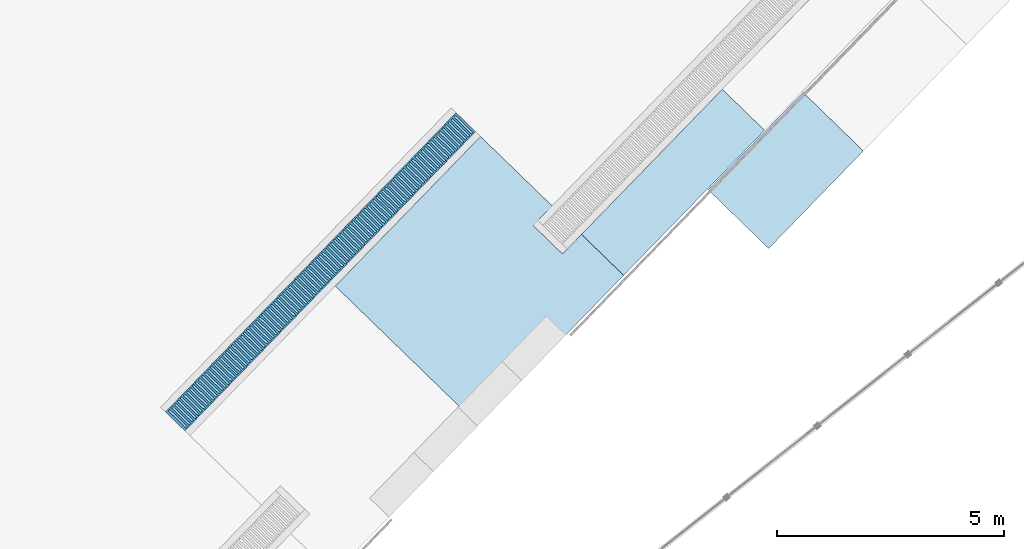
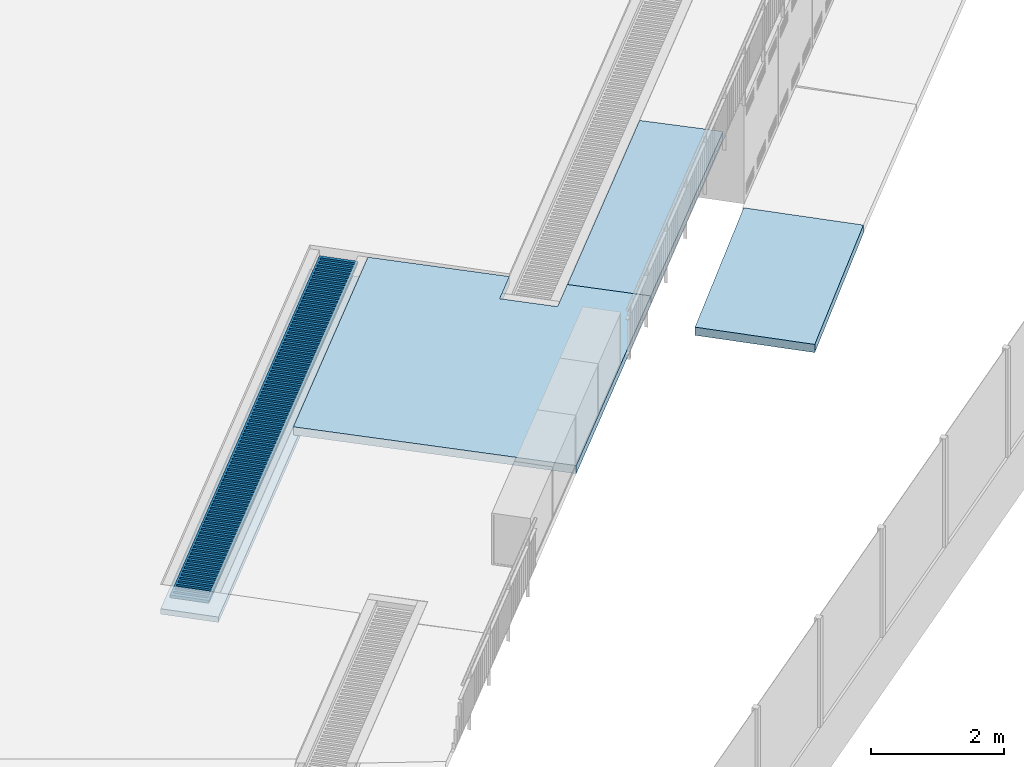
# One storey, part 15 of 37: 5 slabs.
"""IFC2X3 building model written with IfcOpenShell, lengths in centimetres."""

import ifcopenshell
import ifcopenshell.guid

model = None  # the IFC model being written
_history = None  # IfcOwnerHistory: only IFC2X3 demands one
_inside = {}  # id of a spatial element -> (the spatial element, [elements in it])
_under = {}  # id of a project, library or spatial element -> (it, [spatial elements below it])
_declared = {}  # id of a project -> (the project, [libraries it declares])
_typed = {}  # id of a type object -> (the type object, [elements of that type])
_made_of = {}  # id of a material, layer set ... -> (it, [elements and type objects made of it])


def new_model(schema):
    """Start an empty IFC model of exactly this schema.

    Asked for "IFC4X3", IfcOpenShell would pick the latest addendum, in which some entities
    have other attributes; the version numbers below select the first issue.
    IFC2X3 requires an IfcOwnerHistory on every rooted entity: one is made here for all.
    """
    global model, _history
    if schema == "IFC4X3":
        model = ifcopenshell.file(schema_version=(4, 3, 0, 0))
    else:
        model = ifcopenshell.file(schema=schema)
    _inside.clear()
    _under.clear()
    _declared.clear()
    _typed.clear()
    _made_of.clear()
    _history = None
    if model.schema == "IFC2X3":
        org = make("IfcOrganization", Name="unknown")
        user = make(
            "IfcPersonAndOrganization",
            ThePerson=make("IfcPerson", FamilyName="unknown"),
            TheOrganization=org,
        )
        app = make(
            "IfcApplication",
            ApplicationDeveloper=org,
            Version="unknown",
            ApplicationFullName="unknown",
            ApplicationIdentifier="unknown",
        )
        _history = make(
            "IfcOwnerHistory",
            OwningUser=user,
            OwningApplication=app,
            ChangeAction="ADDED",
            CreationDate=0,
        )
    return model


def make(cls, **values):
    """One entity of the class cls with the attributes given. An attribute that is None is left unset."""
    return model.create_entity(
        cls, **{name: value for name, value in values.items() if value is not None}
    )


def entity(cls, *values):
    """Any entity or typed value of the class cls, its attributes in the order of the schema. None: left unset."""
    e = model.create_entity(cls)
    for i, value in enumerate(values):
        if value is not None:
            e[i] = value
    return e


def rooted(cls, **values):
    """An entity with a GlobalId (a new one), such as an element, a storey or a relation."""
    return make(cls, GlobalId=ifcopenshell.guid.new(), OwnerHistory=_history, **values)


def si_unit(unit_type, name, prefix=None):
    """IfcSIUnit, for example si_unit("LENGTHUNIT", "METRE", prefix="MILLI")."""
    return make("IfcSIUnit", UnitType=unit_type, Prefix=prefix, Name=name)


def converted_unit(unit_type, name, factor, base, dimensions=None, offset=None):
    """IfcConversionBasedUnit, such as the inch: factor (a typed value) times the base unit."""
    return make(
        "IfcConversionBasedUnit"
        if offset is None
        else "IfcConversionBasedUnitWithOffset",
        ConversionOffset=offset,
        Dimensions=None
        if dimensions is None
        else entity("IfcDimensionalExponents", *dimensions),
        UnitType=unit_type,
        Name=name,
        ConversionFactor=make(
            "IfcMeasureWithUnit", ValueComponent=factor, UnitComponent=base
        ),
    )


def derived_unit(unit_type, elements):
    """IfcDerivedUnit: a product of units, each with its exponent."""
    return make(
        "IfcDerivedUnit",
        Elements=[
            make("IfcDerivedUnitElement", Unit=unit, Exponent=power)
            for unit, power in elements
        ],
        UnitType=unit_type,
    )


def assignment(units):
    """IfcUnitAssignment: the units of a project."""
    return None if units is None else make("IfcUnitAssignment", Units=units)


def point(xyz):
    """IfcCartesianPoint."""
    return None if xyz is None else make("IfcCartesianPoint", Coordinates=xyz)


def direction(xyz):
    """IfcDirection."""
    return None if xyz is None else make("IfcDirection", DirectionRatios=xyz)


def frame(location, z_axis=None, x_axis=None):
    """IfcAxis2Placement3D, a coordinate frame: its origin and axes. An axis left out is left unset."""
    return make(
        "IfcAxis2Placement3D",
        Location=point(location),
        Axis=direction(z_axis),
        RefDirection=direction(x_axis),
    )


def frame_2d(location, x_axis=None):
    """IfcAxis2Placement2D, a coordinate frame in the plane: its origin and x axis."""
    return make(
        "IfcAxis2Placement2D", Location=point(location), RefDirection=direction(x_axis)
    )


def origin():
    """The frame at (0, 0, 0) with its axes left unset."""
    return frame((0.0, 0.0, 0.0))


def place(relative_to, where):
    """IfcLocalPlacement: puts the frame where relative to a parent placement (None: the world)."""
    return make(
        "IfcLocalPlacement", PlacementRelTo=relative_to, RelativePlacement=where
    )


def context(
    kind, dimensions, precision=None, world=None, true_north=None, identifier=None
):
    """IfcGeometricRepresentationContext, for example the 3D "Model" context."""
    return make(
        "IfcGeometricRepresentationContext",
        ContextIdentifier=identifier,
        ContextType=kind,
        CoordinateSpaceDimension=dimensions,
        Precision=precision,
        WorldCoordinateSystem=world,
        TrueNorth=true_north,
    )


def subcontext(parent, identifier, kind, view, scale=None):
    """IfcGeometricRepresentationSubContext, for example "Body" below "Model"."""
    return make(
        "IfcGeometricRepresentationSubContext",
        ContextIdentifier=identifier,
        ContextType=kind,
        ParentContext=parent,
        TargetScale=scale,
        TargetView=view,
    )


def project(units=None, contexts=None):
    """IfcProject with its units and contexts."""
    return rooted(
        "IfcProject",
        Name="project",
        RepresentationContexts=contexts,
        UnitsInContext=assignment(units),
    )


def spatial(cls, under=None, at=None, **own):
    """A site, building, storey or space (cls), placed at a placement, below another one or the project."""
    s = rooted(cls, ObjectPlacement=at, **own)
    if under is not None:
        _under.setdefault(under.id(), (under, []))[1].append(s)
    return s


def polyline(points):
    """IfcPolyline through the points."""
    return make("IfcPolyline", Points=[point(p) for p in points])


def profile(cls, at=None, kind="AREA", **sizes):
    """A parametric profile (cls). Its sizes go by their IFC names, for example OverallWidth=200.0."""
    return make(cls, ProfileType=kind, Position=at, **sizes)


def rectangle(**sizes):
    """IfcRectangleProfileDef."""
    return profile("IfcRectangleProfileDef", **sizes)


def outline(outer, holes=None, kind="AREA"):
    """IfcArbitraryClosedProfileDef: a profile drawn as a closed curve; with holes, ...WithVoids."""
    if holes is None:
        return make("IfcArbitraryClosedProfileDef", ProfileType=kind, OuterCurve=outer)
    return make(
        "IfcArbitraryProfileDefWithVoids",
        ProfileType=kind,
        OuterCurve=outer,
        InnerCurves=holes,
    )


def extrude(swept, where, along, depth):
    """IfcExtrudedAreaSolid: the profile swept, set in the frame where, extruded along a direction by depth."""
    return make(
        "IfcExtrudedAreaSolid",
        SweptArea=swept,
        Position=where,
        ExtrudedDirection=direction(along),
        Depth=depth,
    )


def shape(context_of_items, identifier, shape_type, items):
    """IfcShapeRepresentation: the items that make up one representation, for example the "Body"."""
    return make(
        "IfcShapeRepresentation",
        ContextOfItems=context_of_items,
        RepresentationIdentifier=identifier,
        RepresentationType=shape_type,
        Items=items,
    )


def material(Name=None, Category=None):
    """IfcMaterial."""
    return make("IfcMaterial", Name=Name, Category=Category)


def layer(
    of_material, thickness, ventilated=None, Name=None, Category=None, Priority=None
):
    """IfcMaterialLayer: one layer of a wall or slab, of a material (None: an air gap)."""
    return make(
        "IfcMaterialLayer",
        Material=of_material,
        LayerThickness=thickness,
        IsVentilated=ventilated,
        Name=Name,
        Category=Category,
        Priority=Priority,
    )


def layer_set(layers, Name=None):
    """IfcMaterialLayerSet."""
    return make("IfcMaterialLayerSet", MaterialLayers=layers, LayerSetName=Name)


def layer_usage(for_layer_set, set_direction, sense, offset, extent=None):
    """IfcMaterialLayerSetUsage: how a layer set lies in its element."""
    return make(
        "IfcMaterialLayerSetUsage",
        ForLayerSet=for_layer_set,
        LayerSetDirection=set_direction,
        DirectionSense=sense,
        OffsetFromReferenceLine=offset,
        ReferenceExtent=extent,
    )


def made_of(thing, what):
    """Note that an element or type object is made of a material, layer set ...; save() writes the relation."""
    if what is not None:
        _made_of.setdefault(what.id(), (what, []))[1].append(thing)
    return thing


def element(
    cls,
    number,
    at=None,
    inside=None,
    cuts=None,
    type_object=None,
    material=None,
    context=None,
    identifier="Body",
    shape_type=None,
    held_by="IfcProductDefinitionShape",
    body=None,
    shapes=None,
    **own,
):
    """One element of the class cls, such as IfcWall. Its Tag is "e" and its number.

    at: its placement. inside: the storey or other place that contains it. cuts: it is an
    opening in that element (IfcRelVoidsElement). A single representation is given by context,
    identifier, shape_type and body (its items); several are given by shapes. held_by: the class
    of the entity that holds the representations. save() writes the other relations.
    """
    e = rooted(cls, Tag="e%d" % number, ObjectPlacement=at, **own)
    if body is not None:
        shapes = [shape(context, identifier, shape_type, body)]
    if shapes is not None:
        e.Representation = make(held_by, Representations=shapes)
    if inside is not None:
        _inside.setdefault(inside.id(), (inside, []))[1].append(e)
    if cuts is not None:
        rooted(
            "IfcRelVoidsElement", RelatingBuildingElement=cuts, RelatedOpeningElement=e
        )
    if type_object is not None:
        _typed.setdefault(type_object.id(), (type_object, []))[1].append(e)
    return made_of(e, material)


def aggregate(whole, parts):
    """IfcRelAggregates: a whole, such as a stair, and the parts it consists of."""
    return rooted("IfcRelAggregates", RelatingObject=whole, RelatedObjects=parts)


def save(model, path):
    """Write the relations noted so far, then the file.

    IfcRelAggregates (storeys below a building ...), IfcRelContainedInSpatialStructure (elements
    in a storey), IfcRelDefinesByType, IfcRelAssociatesMaterial and IfcRelDeclares: one each for
    every whole, place, type object, material and project.
    """
    for whole, parts in _under.values():
        aggregate(whole, parts)
    for where, things in _inside.values():
        rooted(
            "IfcRelContainedInSpatialStructure",
            RelatedElements=things,
            RelatingStructure=where,
        )
    for kind, things in _typed.values():
        rooted("IfcRelDefinesByType", RelatedObjects=things, RelatingType=kind)
    for what, things in _made_of.values():
        rooted("IfcRelAssociatesMaterial", RelatedObjects=things, RelatingMaterial=what)
    for by, libraries in _declared.values():
        rooted("IfcRelDeclares", RelatingContext=by, RelatedDefinitions=libraries)
    model.write(path)


model = new_model("IFC2X3")

# Units and contexts
model_context = context("Model", 3, precision=0.001, world=origin(), true_north=direction((0.717475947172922, 0.696583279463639)))
body_context = subcontext(model_context, "Body", "Model", "MODEL_VIEW")
ifc_project = project(units=[si_unit("LENGTHUNIT", "METRE", prefix="CENTI"), si_unit("AREAUNIT", "SQUARE_METRE"), si_unit("VOLUMEUNIT", "CUBIC_METRE"), converted_unit("PLANEANGLEUNIT", "DEGREE", entity("IfcRatioMeasure", 0.0174532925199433), si_unit("PLANEANGLEUNIT", "RADIAN"), dimensions=[0, 0, 0, 0, 0, 0, 0]), si_unit("MASSUNIT", "GRAM", prefix="KILO"), derived_unit("MASSDENSITYUNIT", [(si_unit("MASSUNIT", "GRAM", prefix="KILO"), 1), (si_unit("LENGTHUNIT", "METRE"), -3)]), si_unit("TIMEUNIT", "SECOND"), si_unit("FREQUENCYUNIT", "HERTZ"), si_unit("THERMODYNAMICTEMPERATUREUNIT", "DEGREE_CELSIUS"), derived_unit("THERMALTRANSMITTANCEUNIT", [(si_unit("MASSUNIT", "GRAM", prefix="KILO"), 1), (si_unit("THERMODYNAMICTEMPERATUREUNIT", "KELVIN"), -1), (si_unit("TIMEUNIT", "SECOND"), -3)]), derived_unit("VOLUMETRICFLOWRATEUNIT", [(si_unit("LENGTHUNIT", "METRE"), 3), (si_unit("TIMEUNIT", "SECOND"), -1)]), si_unit("ELECTRICCURRENTUNIT", "AMPERE"), si_unit("ELECTRICVOLTAGEUNIT", "VOLT"), si_unit("POWERUNIT", "WATT"), si_unit("FORCEUNIT", "NEWTON", prefix="KILO"), si_unit("ILLUMINANCEUNIT", "LUX"), si_unit("LUMINOUSFLUXUNIT", "LUMEN"), si_unit("LUMINOUSINTENSITYUNIT", "CANDELA"), derived_unit("USERDEFINED", [(si_unit("MASSUNIT", "GRAM", prefix="KILO"), -1), (si_unit("LENGTHUNIT", "METRE"), -2), (si_unit("TIMEUNIT", "SECOND"), 3), (si_unit("LUMINOUSFLUXUNIT", "LUMEN"), 1)]), derived_unit("LINEARVELOCITYUNIT", [(si_unit("LENGTHUNIT", "METRE"), 1), (si_unit("TIMEUNIT", "SECOND"), -1)]), si_unit("PRESSUREUNIT", "PASCAL"), derived_unit("USERDEFINED", [(si_unit("LENGTHUNIT", "METRE"), -2), (si_unit("MASSUNIT", "GRAM", prefix="KILO"), 1), (si_unit("TIMEUNIT", "SECOND"), -2)])], contexts=[model_context])

# Site, building, storey
site_placement = place(None, frame((0.0, 0.0, 0.0), z_axis=(0.0, 0.0, 1.0), x_axis=(0.696583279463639, 0.717475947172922, 0.0)))
site = spatial("IfcSite", under=ifc_project, at=site_placement, Name="Surface", CompositionType="ELEMENT")
building_placement = place(site_placement, origin())
building = spatial("IfcBuilding", under=site, at=building_placement, CompositionType="ELEMENT")
storey_placement = place(building_placement, origin())
storey = spatial("IfcBuildingStorey", under=building, at=storey_placement, Name="Nivel 0.00", CompositionType="ELEMENT", Elevation=0.0)

# Slabs
ifc_material_1 = material(Name="<Unnamed>")
ifc_layer_1 = layer(ifc_material_1, 15.0)
ifc_layer_set_1 = layer_set([ifc_layer_1], Name="Pad:HORMIGON_EXTERIOR_150mm")
ifc_layer_usage_1 = layer_usage(ifc_layer_set_1, "AXIS3", "POSITIVE", 0.0)
slab_1_placement = place(storey_placement, frame((-137.112920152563, -1565.3079503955, 132.999369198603)))
element("IfcSlab", 1, at=slab_1_placement, inside=storey, material=ifc_layer_usage_1, Name="Pad:HORMIGON_EXTERIOR_150mm", ObjectType="Pad:HORMIGON_EXTERIOR_150mm", PredefinedType="FLOOR", context=body_context, shape_type="SweptSolid", body=[
    extrude(outline(polyline([(229.930055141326, 0.0), (-229.930055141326, 0.0), (-229.929970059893, -439.859701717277), (229.93005514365, -439.859701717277), (229.930055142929, -310.012577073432), (169.9309527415, -310.013025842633), (169.930952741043, -220.003891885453), (229.930055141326, -220.003891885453), (229.930055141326, 0.0)])), frame((229.930055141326, 439.841513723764, 15.0006202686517), z_axis=(0.0, 0.00909380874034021, 0.999958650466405), x_axis=(1.0, 0.0, 0.0)), (0.0, 0.00909380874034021, -0.999958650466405), 15.0006202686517),
])
ifc_layer_usage_2 = layer_usage(ifc_layer_set_1, "AXIS3", "POSITIVE", 0.0)
slab_2_placement = place(storey_placement, frame((322.747190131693, -1565.30812560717, 134.998210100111)))
element("IfcSlab", 2, at=slab_2_placement, inside=storey, material=ifc_layer_usage_2, Name="Pad:HORMIGON_EXTERIOR_150mm", ObjectType="Pad:HORMIGON_EXTERIOR_150mm", PredefinedType="FLOOR", context=body_context, shape_type="SweptSolid", body=[
    extrude(outline(polyline([(222.967704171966, 0.0), (-222.967704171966, 0.0), (-222.967704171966, -129.857333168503), (172.824924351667, -129.857333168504), (222.967704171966, -129.850801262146), (222.967704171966, 0.0)])), frame((222.967704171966, 129.841930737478, 15.0017793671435), z_axis=(0.0, 0.0154015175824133, 0.999881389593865), x_axis=(1.0, 0.0, 0.0)), (0.0, 0.0154015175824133, -0.999881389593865), 15.0017793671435),
])
ifc_layer_usage_3 = layer_usage(ifc_layer_set_1, "AXIS3", "POSITIVE", 0.0)
slab_3_placement = place(storey_placement, frame((587.739818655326, -1753.39831701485, -100.021325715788)))
element("IfcSlab", 3, at=slab_3_placement, inside=storey, material=ifc_layer_usage_3, Name="Pad:HORMIGON_EXTERIOR_150mm", ObjectType="Pad:HORMIGON_EXTERIOR_150mm", PredefinedType="FLOOR", context=body_context, shape_type="SweptSolid", body=[
    extrude(rectangle(XDim=300.447469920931, YDim=186.090191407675, at=frame_2d((150.223734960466, -1.00326556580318), x_axis=(-1.0, 0.0))), frame((0.0, 94.0483612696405, 15.0213151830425), z_axis=(-0.0532539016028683, 0.0, 0.998581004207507), x_axis=(0.998581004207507, 0.0, 0.0532539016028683)), (-0.0532539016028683, 0.0, -0.998581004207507), 15.0213151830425),
])
ifc_material_2 = material(Name="Stainless Steel")
slab_4_placement = place(storey_placement, origin())
element("IfcSlab", 4, at=slab_4_placement, inside=storey, material=ifc_material_2, Name="REGUERA_METÁLICA3:REGUERA_METÁLICA-03", ObjectType="REGUERA_METÁLICA3:REGUERA_METÁLICA-03", PredefinedType="FLOOR", context=body_context, shape_type="SweptSolid", body=[
    extrude(outline(polyline([(-29.9950213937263, -459.860110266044), (29.9950213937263, -459.860110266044), (29.9950213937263, 459.860110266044), (-29.9950213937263, 459.860110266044), (-29.9950213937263, -459.860110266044)]), holes=[polyline([(-26.9925406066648, 202.477018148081), (-26.9925406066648, 206.828855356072), (27.0027963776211, 206.828855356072), (27.0027963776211, 202.477018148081), (-26.9925406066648, 202.477018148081)]), polyline([(-26.9925406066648, 211.591355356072), (-26.9925406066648, 216.353855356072), (27.0035162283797, 216.353855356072), (27.0035162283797, 211.591355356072), (-26.9925406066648, 211.591355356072)]), polyline([(-26.9925406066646, 221.116355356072), (-26.9925406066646, 225.878855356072), (27.0035162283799, 225.878855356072), (27.0035162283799, 221.116355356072), (-26.9925406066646, 221.116355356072)]), polyline([(-26.9925406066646, 230.641355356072), (-26.9925406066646, 235.403855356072), (27.0035162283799, 235.403855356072), (27.0035162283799, 230.641355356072), (-26.9925406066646, 230.641355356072)]), polyline([(-26.9925406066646, 240.166355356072), (-26.9925406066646, 244.928855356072), (27.0035162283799, 244.928855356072), (27.0035162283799, 240.166355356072), (-26.9925406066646, 240.166355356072)]), polyline([(-26.9925406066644, 249.691355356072), (-26.9925406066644, 254.453855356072), (27.0035162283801, 254.453855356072), (27.0035162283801, 249.691355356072), (-26.9925406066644, 249.691355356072)]), polyline([(-26.9925406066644, 259.216355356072), (-26.9925406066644, 263.978855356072), (27.0035162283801, 263.978855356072), (27.0035162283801, 259.216355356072), (-26.9925406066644, 259.216355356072)]), polyline([(-26.9925406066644, 268.741355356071), (-26.9925406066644, 273.503855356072), (27.0035162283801, 273.503855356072), (27.0035162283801, 268.741355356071), (-26.9925406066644, 268.741355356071)]), polyline([(-26.9925406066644, 278.266355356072), (-26.9925406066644, 283.028855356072), (27.0035162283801, 283.028855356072), (27.0035162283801, 278.266355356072), (-26.9925406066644, 278.266355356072)]), polyline([(-26.9925406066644, 287.791355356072), (-26.9925406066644, 292.553855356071), (27.0035162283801, 292.553855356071), (27.0035162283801, 287.791355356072), (-26.9925406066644, 287.791355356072)]), polyline([(-26.9925406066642, 297.316355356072), (-26.9925406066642, 302.078855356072), (27.0035162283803, 302.078855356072), (27.0035162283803, 297.316355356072), (-26.9925406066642, 297.316355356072)]), polyline([(-26.9925406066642, 306.841355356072), (-26.9925406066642, 311.603855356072), (27.0035162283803, 311.603855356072), (27.0035162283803, 306.841355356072), (-26.9925406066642, 306.841355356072)]), polyline([(-26.9925406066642, 316.366355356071), (-26.9925406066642, 321.128855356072), (27.0035162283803, 321.128855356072), (27.0035162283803, 316.366355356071), (-26.9925406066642, 316.366355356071)]), polyline([(-26.992540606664, 325.891355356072), (-26.992540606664, 330.653855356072), (27.0035162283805, 330.653855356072), (27.0035162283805, 325.891355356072), (-26.992540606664, 325.891355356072)]), polyline([(-26.992540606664, 335.416355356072), (-26.992540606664, 340.178855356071), (27.0035162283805, 340.178855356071), (27.0035162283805, 335.416355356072), (-26.992540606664, 335.416355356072)]), polyline([(-26.992540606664, 344.941355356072), (-26.992540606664, 349.703855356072), (27.0035162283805, 349.703855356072), (27.0035162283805, 344.941355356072), (-26.992540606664, 344.941355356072)]), polyline([(-26.992540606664, 354.466355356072), (-26.992540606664, 359.228855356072), (27.0035162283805, 359.228855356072), (27.0035162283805, 354.466355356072), (-26.992540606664, 354.466355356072)]), polyline([(-26.992540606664, 363.991355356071), (-26.992540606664, 368.753855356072), (27.0035162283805, 368.753855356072), (27.0035162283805, 363.991355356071), (-26.992540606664, 363.991355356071)]), polyline([(-26.9925406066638, 373.516355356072), (-26.9925406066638, 378.278855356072), (27.0035162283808, 378.278855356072), (27.0035162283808, 373.516355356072), (-26.9925406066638, 373.516355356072)]), polyline([(-26.9925406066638, 383.041355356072), (-26.9925406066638, 387.803855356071), (27.0035162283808, 387.803855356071), (27.0035162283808, 383.041355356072), (-26.9925406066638, 383.041355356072)]), polyline([(-26.9925406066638, 392.566355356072), (-26.9925406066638, 397.328855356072), (27.0035162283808, 397.328855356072), (27.0035162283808, 392.566355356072), (-26.9925406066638, 392.566355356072)]), polyline([(-26.9925406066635, 402.091355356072), (-26.9925406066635, 406.853855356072), (27.003516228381, 406.853855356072), (27.003516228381, 402.091355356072), (-26.9925406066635, 402.091355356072)]), polyline([(-26.9925406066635, 411.616355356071), (-26.9925406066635, 416.378855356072), (27.003516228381, 416.378855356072), (27.003516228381, 411.616355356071), (-26.9925406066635, 411.616355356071)]), polyline([(-26.9925406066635, 421.141355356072), (-26.9925406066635, 425.903855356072), (27.003516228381, 425.903855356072), (27.003516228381, 421.141355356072), (-26.9925406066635, 421.141355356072)]), polyline([(-26.9925406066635, 430.666355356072), (-26.9925406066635, 435.428855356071), (27.003516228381, 435.428855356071), (27.003516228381, 430.666355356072), (-26.9925406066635, 430.666355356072)]), polyline([(-26.9925406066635, 440.191355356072), (-26.9925406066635, 444.953855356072), (27.003516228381, 444.953855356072), (27.003516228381, 440.191355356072), (-26.9925406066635, 440.191355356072)]), polyline([(-26.9925406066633, 449.716355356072), (-26.9925406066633, 454.478855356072), (27.0035162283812, 454.478855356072), (27.0035162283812, 449.716355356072), (-26.9925406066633, 449.716355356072)]), polyline([(-26.9925406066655, -44.7623190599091), (-26.9925406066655, -40.4104818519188), (27.0027963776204, -40.4104818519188), (27.0027963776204, -44.7623190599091), (-26.9925406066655, -44.7623190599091)]), polyline([(-26.9925406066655, -35.6479818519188), (-26.9925406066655, -30.8854818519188), (27.003516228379, -30.8854818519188), (27.003516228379, -35.6479818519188), (-26.9925406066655, -35.6479818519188)]), polyline([(-26.9925406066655, -26.1229818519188), (-26.9925406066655, -21.3604818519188), (27.003516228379, -21.3604818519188), (27.003516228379, -26.1229818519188), (-26.9925406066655, -26.1229818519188)]), polyline([(-26.9925406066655, -16.5979818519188), (-26.9925406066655, -11.8354818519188), (27.003516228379, -11.8354818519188), (27.003516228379, -16.5979818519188), (-26.9925406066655, -16.5979818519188)]), polyline([(-26.9925406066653, -7.07298185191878), (-26.9925406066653, -2.31048185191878), (27.0035162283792, -2.31048185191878), (27.0035162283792, -7.07298185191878), (-26.9925406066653, -7.07298185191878)]), polyline([(-26.9925406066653, 2.45201814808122), (-26.9925406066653, 7.21451814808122), (27.0035162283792, 7.21451814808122), (27.0035162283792, 2.45201814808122), (-26.9925406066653, 2.45201814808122)]), polyline([(-26.9925406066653, 11.9770181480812), (-26.9925406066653, 16.7395181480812), (27.0035162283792, 16.7395181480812), (27.0035162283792, 11.9770181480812), (-26.9925406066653, 11.9770181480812)]), polyline([(-26.9925406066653, 21.5020181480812), (-26.9925406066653, 26.2645181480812), (27.0035162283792, 26.2645181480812), (27.0035162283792, 21.5020181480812), (-26.9925406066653, 21.5020181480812)]), polyline([(-26.9925406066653, 31.0270181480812), (-26.9925406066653, 35.7895181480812), (27.0035162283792, 35.7895181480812), (27.0035162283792, 31.0270181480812), (-26.9925406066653, 31.0270181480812)]), polyline([(-26.9925406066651, 40.5520181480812), (-26.9925406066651, 45.3145181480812), (27.0035162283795, 45.3145181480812), (27.0035162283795, 40.5520181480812), (-26.9925406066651, 40.5520181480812)]), polyline([(-26.9925406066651, 50.0770181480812), (-26.9925406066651, 54.8395181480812), (27.0035162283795, 54.8395181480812), (27.0035162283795, 50.0770181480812), (-26.9925406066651, 50.0770181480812)]), polyline([(-26.9925406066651, 59.6020181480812), (-26.9925406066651, 64.3645181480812), (27.0035162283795, 64.3645181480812), (27.0035162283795, 59.6020181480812), (-26.9925406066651, 59.6020181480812)]), polyline([(-26.9925406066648, 69.1270181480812), (-26.9925406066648, 73.8895181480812), (27.0035162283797, 73.8895181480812), (27.0035162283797, 69.1270181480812), (-26.9925406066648, 69.1270181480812)]), polyline([(-26.9925406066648, 78.6520181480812), (-26.9925406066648, 83.4145181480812), (27.0035162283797, 83.4145181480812), (27.0035162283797, 78.6520181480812), (-26.9925406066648, 78.6520181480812)]), polyline([(-26.9925406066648, 88.1770181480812), (-26.9925406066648, 92.9395181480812), (27.0035162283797, 92.9395181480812), (27.0035162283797, 88.1770181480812), (-26.9925406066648, 88.1770181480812)]), polyline([(-26.9925406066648, 97.7020181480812), (-26.9925406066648, 102.464518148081), (27.0035162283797, 102.464518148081), (27.0035162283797, 97.7020181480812), (-26.9925406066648, 97.7020181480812)]), polyline([(-26.9925406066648, 107.227018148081), (-26.9925406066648, 111.989518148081), (27.0035162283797, 111.989518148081), (27.0035162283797, 107.227018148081), (-26.9925406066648, 107.227018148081)]), polyline([(-26.9925406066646, 116.752018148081), (-26.9925406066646, 121.514518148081), (27.0035162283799, 121.514518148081), (27.0035162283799, 116.752018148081), (-26.9925406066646, 116.752018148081)]), polyline([(-26.9925406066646, 126.277018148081), (-26.9925406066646, 131.039518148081), (27.0035162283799, 131.039518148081), (27.0035162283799, 126.277018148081), (-26.9925406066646, 126.277018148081)]), polyline([(-26.9925406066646, 135.802018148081), (-26.9925406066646, 140.564518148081), (27.0035162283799, 140.564518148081), (27.0035162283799, 135.802018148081), (-26.9925406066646, 135.802018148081)]), polyline([(-26.9925406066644, 145.327018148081), (-26.9925406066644, 150.089518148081), (27.0035162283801, 150.089518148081), (27.0035162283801, 145.327018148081), (-26.9925406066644, 145.327018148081)]), polyline([(-26.9925406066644, 154.852018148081), (-26.9925406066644, 159.614518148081), (27.0035162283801, 159.614518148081), (27.0035162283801, 154.852018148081), (-26.9925406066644, 154.852018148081)]), polyline([(-26.9925406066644, 164.377018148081), (-26.9925406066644, 169.139518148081), (27.0035162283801, 169.139518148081), (27.0035162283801, 164.377018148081), (-26.9925406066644, 164.377018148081)]), polyline([(-26.9925406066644, 173.902018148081), (-26.9925406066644, 178.664518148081), (27.0035162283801, 178.664518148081), (27.0035162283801, 173.902018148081), (-26.9925406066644, 173.902018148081)]), polyline([(-26.9925406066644, 183.427018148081), (-26.9925406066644, 188.189518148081), (27.0035162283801, 188.189518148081), (27.0035162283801, 183.427018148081), (-26.9925406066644, 183.427018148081)]), polyline([(-26.9925406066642, 192.952018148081), (-26.9925406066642, 197.714518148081), (27.0035162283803, 197.714518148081), (27.0035162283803, 192.952018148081), (-26.9925406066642, 192.952018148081)]), polyline([(-26.9925406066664, -292.001656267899), (-26.9925406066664, -287.649819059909), (27.0027963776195, -287.649819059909), (27.0027963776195, -292.001656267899), (-26.9925406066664, -292.001656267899)]), polyline([(-26.9925406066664, -282.887319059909), (-26.9925406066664, -278.124819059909), (27.0035162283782, -278.124819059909), (27.0035162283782, -282.887319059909), (-26.9925406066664, -282.887319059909)]), polyline([(-26.9925406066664, -273.362319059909), (-26.9925406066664, -268.599819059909), (27.0035162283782, -268.599819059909), (27.0035162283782, -273.362319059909), (-26.9925406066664, -273.362319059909)]), polyline([(-26.9925406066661, -263.837319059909), (-26.9925406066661, -259.074819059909), (27.0035162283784, -259.074819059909), (27.0035162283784, -263.837319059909), (-26.9925406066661, -263.837319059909)]), polyline([(-26.9925406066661, -254.312319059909), (-26.9925406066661, -249.549819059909), (27.0035162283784, -249.549819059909), (27.0035162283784, -254.312319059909), (-26.9925406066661, -254.312319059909)]), polyline([(-26.9925406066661, -244.787319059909), (-26.9925406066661, -240.024819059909), (27.0035162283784, -240.024819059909), (27.0035162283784, -244.787319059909), (-26.9925406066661, -244.787319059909)]), polyline([(-26.9925406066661, -235.262319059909), (-26.9925406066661, -230.499819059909), (27.0035162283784, -230.499819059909), (27.0035162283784, -235.262319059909), (-26.9925406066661, -235.262319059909)]), polyline([(-26.9925406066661, -225.737319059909), (-26.9925406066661, -220.974819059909), (27.0035162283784, -220.974819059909), (27.0035162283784, -225.737319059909), (-26.9925406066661, -225.737319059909)]), polyline([(-26.9925406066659, -216.212319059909), (-26.9925406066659, -211.449819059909), (27.0035162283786, -211.449819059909), (27.0035162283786, -216.212319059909), (-26.9925406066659, -216.212319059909)]), polyline([(-26.9925406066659, -206.687319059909), (-26.9925406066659, -201.924819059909), (27.0035162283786, -201.924819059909), (27.0035162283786, -206.687319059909), (-26.9925406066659, -206.687319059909)]), polyline([(-26.9925406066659, -197.162319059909), (-26.9925406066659, -192.399819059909), (27.0035162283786, -192.399819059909), (27.0035162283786, -197.162319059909), (-26.9925406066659, -197.162319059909)]), polyline([(-26.9925406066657, -187.637319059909), (-26.9925406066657, -182.874819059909), (27.0035162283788, -182.874819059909), (27.0035162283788, -187.637319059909), (-26.9925406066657, -187.637319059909)]), polyline([(-26.9925406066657, -178.112319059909), (-26.9925406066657, -173.349819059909), (27.0035162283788, -173.349819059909), (27.0035162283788, -178.112319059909), (-26.9925406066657, -178.112319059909)]), polyline([(-26.9925406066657, -168.587319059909), (-26.9925406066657, -163.824819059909), (27.0035162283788, -163.824819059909), (27.0035162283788, -168.587319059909), (-26.9925406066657, -168.587319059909)]), polyline([(-26.9925406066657, -159.062319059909), (-26.9925406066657, -154.299819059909), (27.0035162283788, -154.299819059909), (27.0035162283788, -159.062319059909), (-26.9925406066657, -159.062319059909)]), polyline([(-26.9925406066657, -149.537319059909), (-26.9925406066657, -144.774819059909), (27.0035162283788, -144.774819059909), (27.0035162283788, -149.537319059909), (-26.9925406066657, -149.537319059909)]), polyline([(-26.9925406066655, -140.012319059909), (-26.9925406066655, -135.249819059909), (27.003516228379, -135.249819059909), (27.003516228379, -140.012319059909), (-26.9925406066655, -140.012319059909)]), polyline([(-26.9925406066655, -130.487319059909), (-26.9925406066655, -125.724819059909), (27.003516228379, -125.724819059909), (27.003516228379, -130.487319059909), (-26.9925406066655, -130.487319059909)]), polyline([(-26.9925406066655, -120.962319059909), (-26.9925406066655, -116.199819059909), (27.003516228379, -116.199819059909), (27.003516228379, -120.962319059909), (-26.9925406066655, -120.962319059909)]), polyline([(-26.9925406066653, -111.437319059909), (-26.9925406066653, -106.674819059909), (27.0035162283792, -106.674819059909), (27.0035162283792, -111.437319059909), (-26.9925406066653, -111.437319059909)]), polyline([(-26.9925406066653, -101.912319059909), (-26.9925406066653, -97.1498190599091), (27.0035162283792, -97.1498190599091), (27.0035162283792, -101.912319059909), (-26.9925406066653, -101.912319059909)]), polyline([(-26.9925406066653, -92.3873190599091), (-26.9925406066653, -87.6248190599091), (27.0035162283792, -87.6248190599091), (27.0035162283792, -92.3873190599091), (-26.9925406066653, -92.3873190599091)]), polyline([(-26.9925406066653, -82.8623190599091), (-26.9925406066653, -78.0998190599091), (27.0035162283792, -78.0998190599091), (27.0035162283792, -82.8623190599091), (-26.9925406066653, -82.8623190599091)]), polyline([(-26.9925406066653, -73.3373190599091), (-26.9925406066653, -68.5748190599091), (27.0035162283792, -68.5748190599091), (27.0035162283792, -73.3373190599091), (-26.9925406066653, -73.3373190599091)]), polyline([(-26.9925406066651, -63.8123190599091), (-26.9925406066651, -59.0498190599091), (27.0035162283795, -59.0498190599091), (27.0035162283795, -63.8123190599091), (-26.9925406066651, -63.8123190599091)]), polyline([(-26.9925406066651, -54.2873190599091), (-26.9925406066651, -49.5248190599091), (27.0035162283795, -49.5248190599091), (27.0035162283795, -54.2873190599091), (-26.9925406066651, -54.2873190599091)]), polyline([(-26.9925406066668, -453.926656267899), (-26.9925406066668, -449.164156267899), (27.0035162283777, -449.164156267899), (27.0035162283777, -453.926656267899), (-26.9925406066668, -453.926656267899)]), polyline([(-26.9925406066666, -444.401656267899), (-26.9925406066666, -439.639156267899), (27.0035162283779, -439.639156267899), (27.0035162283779, -444.401656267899), (-26.9925406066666, -444.401656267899)]), polyline([(-26.9925406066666, -434.876656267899), (-26.9925406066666, -430.114156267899), (27.0035162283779, -430.114156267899), (27.0035162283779, -434.876656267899), (-26.9925406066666, -434.876656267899)]), polyline([(-26.9925406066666, -425.351656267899), (-26.9925406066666, -420.589156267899), (27.0035162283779, -420.589156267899), (27.0035162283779, -425.351656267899), (-26.9925406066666, -425.351656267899)]), polyline([(-26.9925406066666, -415.826656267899), (-26.9925406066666, -411.064156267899), (27.0035162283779, -411.064156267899), (27.0035162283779, -415.826656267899), (-26.9925406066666, -415.826656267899)]), polyline([(-26.9925406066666, -406.301656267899), (-26.9925406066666, -401.539156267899), (27.0035162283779, -401.539156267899), (27.0035162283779, -406.301656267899), (-26.9925406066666, -406.301656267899)]), polyline([(-26.9925406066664, -396.776656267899), (-26.9925406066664, -392.014156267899), (27.0035162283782, -392.014156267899), (27.0035162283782, -396.776656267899), (-26.9925406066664, -396.776656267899)]), polyline([(-26.9925406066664, -387.251656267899), (-26.9925406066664, -382.489156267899), (27.0035162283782, -382.489156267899), (27.0035162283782, -387.251656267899), (-26.9925406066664, -387.251656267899)]), polyline([(-26.9925406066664, -377.726656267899), (-26.9925406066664, -372.964156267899), (27.0035162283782, -372.964156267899), (27.0035162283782, -377.726656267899), (-26.9925406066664, -377.726656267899)]), polyline([(-26.9925406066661, -368.201656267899), (-26.9925406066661, -363.439156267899), (27.0035162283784, -363.439156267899), (27.0035162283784, -368.201656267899), (-26.9925406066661, -368.201656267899)]), polyline([(-26.9925406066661, -358.676656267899), (-26.9925406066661, -353.914156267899), (27.0035162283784, -353.914156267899), (27.0035162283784, -358.676656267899), (-26.9925406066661, -358.676656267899)]), polyline([(-26.9925406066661, -349.151656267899), (-26.9925406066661, -344.389156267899), (27.0035162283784, -344.389156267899), (27.0035162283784, -349.151656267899), (-26.9925406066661, -349.151656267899)]), polyline([(-26.9925406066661, -339.626656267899), (-26.9925406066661, -334.864156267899), (27.0035162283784, -334.864156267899), (27.0035162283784, -339.626656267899), (-26.9925406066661, -339.626656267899)]), polyline([(-26.9925406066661, -330.101656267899), (-26.9925406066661, -325.339156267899), (27.0035162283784, -325.339156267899), (27.0035162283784, -330.101656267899), (-26.9925406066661, -330.101656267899)]), polyline([(-26.9925406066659, -320.576656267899), (-26.9925406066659, -315.814156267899), (27.0035162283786, -315.814156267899), (27.0035162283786, -320.576656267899), (-26.9925406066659, -320.576656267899)]), polyline([(-26.9925406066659, -311.051656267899), (-26.9925406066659, -306.289156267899), (27.0035162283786, -306.289156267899), (27.0035162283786, -311.051656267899), (-26.9925406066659, -311.051656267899)]), polyline([(-26.9925406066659, -301.526656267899), (-26.9925406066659, -296.764156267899), (27.0035162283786, -296.764156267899), (27.0035162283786, -301.526656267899), (-26.9925406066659, -301.526656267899)])]), frame((-137.14546678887, -1080.05119768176, 133.0), z_axis=(0.0, 0.0, 1.0), x_axis=(0.0, -1.0, 0.0)), (0.0, 0.0, 1.0), 5.0),
])
ifc_material_3 = material(Name="Concrete, Precast")
ifc_layer_2 = layer(ifc_material_3, 10.0)
ifc_layer_set_2 = layer_set([ifc_layer_2], Name="Floor:ARQ_LOSA_HOMRIGON_100mm")
ifc_layer_usage_4 = layer_usage(ifc_layer_set_2, "AXIS3", "POSITIVE", 0.0)
slab_5_placement = place(storey_placement, origin())
element("IfcSlab", 5, at=slab_5_placement, inside=storey, material=ifc_layer_usage_4, Name="Floor:ARQ_LOSA_HOMRIGON_100mm", ObjectType="Floor:ARQ_LOSA_HOMRIGON_100mm", PredefinedType="FLOOR", context=body_context, shape_type="SweptSolid", body=[
    extrude(rectangle(XDim=89.999913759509, YDim=919.720220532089, at=frame_2d((-1.10134124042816e-13, 0.0), x_axis=(1.0, 0.0))), frame((-137.14546678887, -1080.05613316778, 110.0), z_axis=(0.0, 0.0, -1.0), x_axis=(0.0, 1.0, 0.0)), (0.0, 0.0, 1.0), 10.0),
])

save(model, "model.ifc")
